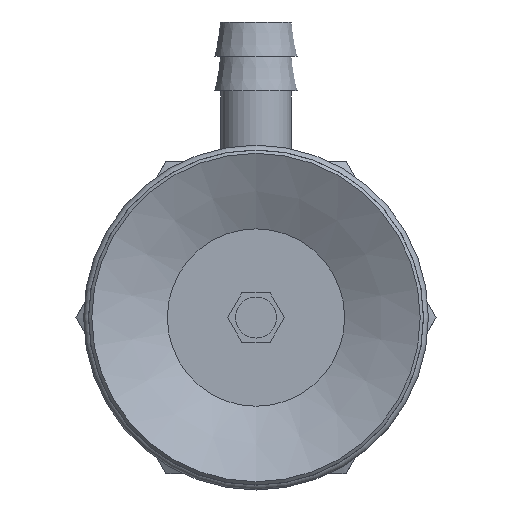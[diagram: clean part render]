
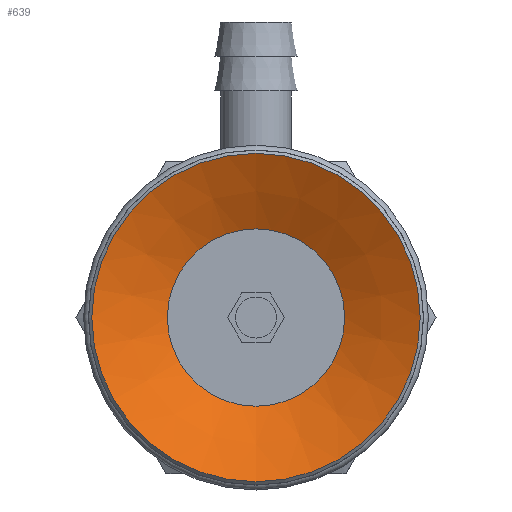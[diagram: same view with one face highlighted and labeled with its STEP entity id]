
A CAD part, front view. The second image highlights one B-rep face of the part: STEP entity #639.
In plain terms, the highlighted conical face has half-angle 63 degrees and reference radius 5.4 mm.
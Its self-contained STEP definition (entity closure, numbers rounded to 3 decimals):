
#639=ADVANCED_FACE('',(#965,#966),#967,.F.);
#965=FACE_BOUND('',#1328,.T.);
#966=FACE_OUTER_BOUND('',#1329,.T.);
#967=CONICAL_SURFACE('',#1330,5.4,1.1);
#1328=EDGE_LOOP('',(#2258));
#1329=EDGE_LOOP('',(#2259));
#1330=AXIS2_PLACEMENT_3D('',#2260,#2261,#2262);
#2258=ORIENTED_EDGE('',*,*,#2636,.F.);
#2259=ORIENTED_EDGE('',*,*,#2637,.T.);
#2260=CARTESIAN_POINT('',(0.0,5.518,0.0));
#2261=DIRECTION('',(-0.0,-1.0,0.));
#2262=DIRECTION('',(0.0,0.,-1.0));
#2636=EDGE_CURVE('',#3085,#3085,#3086,.T.);
#2637=EDGE_CURVE('',#3087,#3087,#3088,.T.);
#3085=VERTEX_POINT('',#4037);
#3086=CIRCLE('',#4038,5.4);
#3087=VERTEX_POINT('',#4039);
#3088=CIRCLE('',#4040,10.0);
#4037=CARTESIAN_POINT('',(0.0,5.518,-5.4));
#4038=AXIS2_PLACEMENT_3D('',#4477,#4478,#4479);
#4039=CARTESIAN_POINT('',(0.0,3.175,-10.0));
#4040=AXIS2_PLACEMENT_3D('',#4480,#4481,#4482);
#4477=CARTESIAN_POINT('',(0.0,5.518,0.0));
#4478=DIRECTION('',(0.0,-1.0,0.));
#4479=DIRECTION('',(0.0,0.,-1.0));
#4480=CARTESIAN_POINT('',(0.0,3.175,0.0));
#4481=DIRECTION('',(0.0,-1.0,0.));
#4482=DIRECTION('',(0.0,0.,-1.0));
